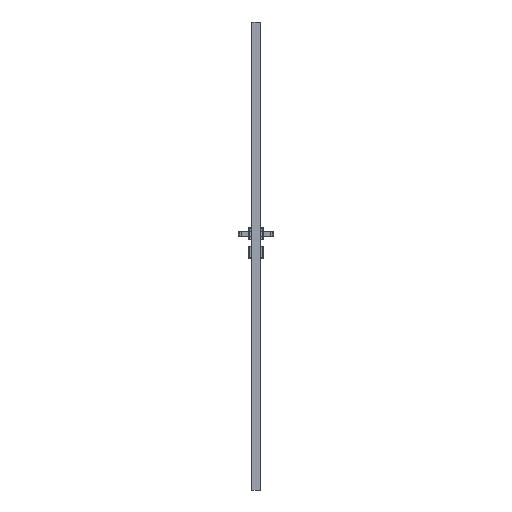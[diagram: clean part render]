
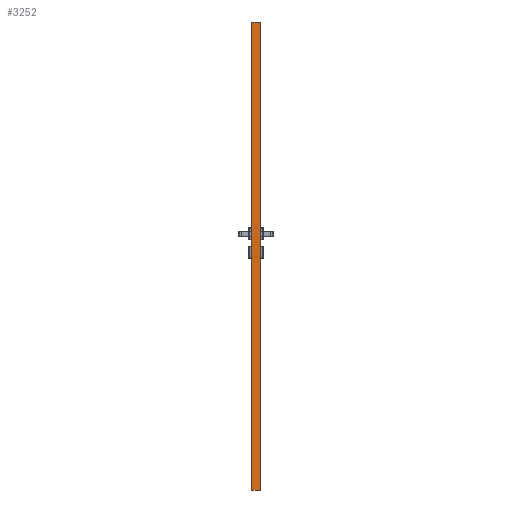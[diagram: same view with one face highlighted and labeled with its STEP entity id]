
A CAD part, left-side view. The second image highlights one B-rep face of the part: STEP entity #3252.
In plain terms, the highlighted planar face has unit normal (-1, 0, 0).
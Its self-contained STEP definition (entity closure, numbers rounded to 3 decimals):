
#3252=ADVANCED_FACE('',(#5856),#5008,.F.);
#5008=PLANE('',#30789);
#5856=FACE_OUTER_BOUND('',#7548,.T.);
#7548=EDGE_LOOP('',(#9489,#9490,#9491,#9492));
#9489=ORIENTED_EDGE('',*,*,#21048,.T.);
#9490=ORIENTED_EDGE('',*,*,#21049,.T.);
#9491=ORIENTED_EDGE('',*,*,#21050,.T.);
#9492=ORIENTED_EDGE('',*,*,#21051,.T.);
#18267=VERTEX_POINT('',#42450);
#18268=VERTEX_POINT('',#42451);
#18269=VERTEX_POINT('',#42453);
#18270=VERTEX_POINT('',#42455);
#21048=EDGE_CURVE('',#18267,#18268,#25444,.T.);
#21049=EDGE_CURVE('',#18268,#18269,#25445,.T.);
#21050=EDGE_CURVE('',#18269,#18270,#25446,.T.);
#21051=EDGE_CURVE('',#18270,#18267,#25447,.T.);
#25444=LINE('',#42449,#28132);
#25445=LINE('',#42452,#28133);
#25446=LINE('',#42454,#28134);
#25447=LINE('',#42456,#28135);
#28132=VECTOR('',#33849,1.);
#28133=VECTOR('',#33850,1.);
#28134=VECTOR('',#33851,1.);
#28135=VECTOR('',#33852,1.);
#30789=AXIS2_PLACEMENT_3D('',#42457,#33853,#33854);
#33849=DIRECTION('',(0.,0.,1.));
#33850=DIRECTION('',(0.,1.,0.));
#33851=DIRECTION('',(0.,0.,-1.));
#33852=DIRECTION('',(0.,-1.,0.));
#33853=DIRECTION('',(1.,0.,0.));
#33854=DIRECTION('',(0.,1.,0.));
#42449=CARTESIAN_POINT('',(-309.,-38.35,0.));
#42450=CARTESIAN_POINT('',(-309.,-38.35,0.));
#42451=CARTESIAN_POINT('',(-309.,-38.35,2017.01));
#42452=CARTESIAN_POINT('',(-309.,0.,2017.01));
#42453=CARTESIAN_POINT('',(-309.,-1.65,2017.01));
#42454=CARTESIAN_POINT('',(-309.,-1.65,0.));
#42455=CARTESIAN_POINT('',(-309.,-1.65,0.));
#42456=CARTESIAN_POINT('',(-309.,-38.35,0.));
#42457=CARTESIAN_POINT('',(-309.,-38.35,0.));
